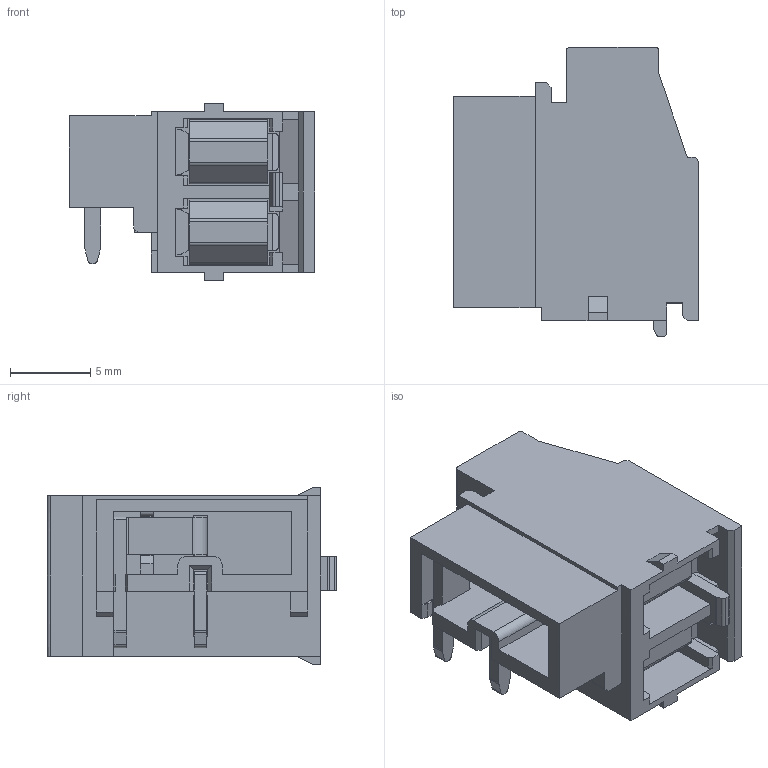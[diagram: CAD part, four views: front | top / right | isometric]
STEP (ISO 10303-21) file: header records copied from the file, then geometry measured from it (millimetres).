
FILE_DESCRIPTION((''),'2;1');
FILE_NAME('01','2013-05-31T',('design'),(''),'PRO/ENGINEER BY PARAMETRIC TECHNOLOGY CORPORATION, 2008380','PRO/ENGINEER BY PARAMETRIC TECHNOLOGY CORPORATION, 2008380','');
FILE_SCHEMA(('CONFIG_CONTROL_DESIGN'));
Length unit declared in the file: millimetre
Products named in the file (1): 01
Bounding box: 15.3 x 18.05 x 11 mm (x, y, z)
Volume: 1190.1 mm3; surface area: 2754.4 mm2
Topology: 1 solids, 1 shells, 538 faces, 1622 edges, 1051 vertices
Faces by surface type: plane 334, cylinder 100, bspline 45, extrusion 25, cone 22, torus 10, revolution 2
Entity records: 26925 total; most frequent: CARTESIAN_POINT 12843, ORIENTED_EDGE 3244, DIRECTION 2461, EDGE_CURVE 1622, VECTOR 1127, LINE 1102, VERTEX_POINT 1051, AXIS2_PLACEMENT_3D 666
